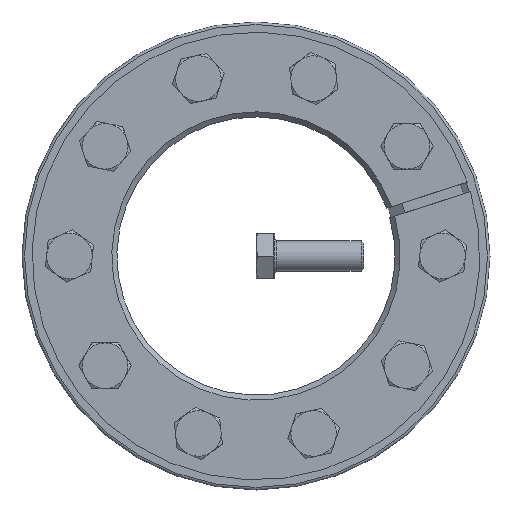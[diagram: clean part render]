
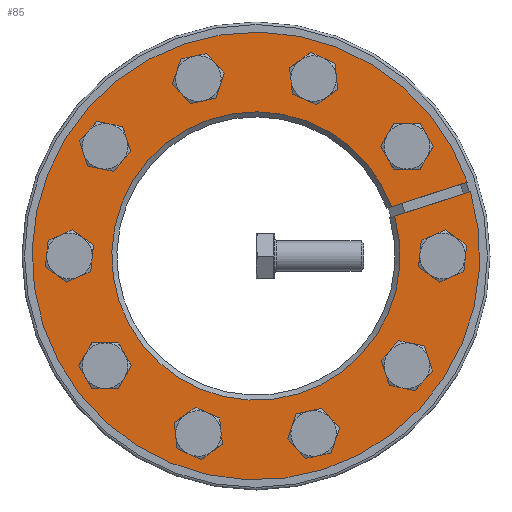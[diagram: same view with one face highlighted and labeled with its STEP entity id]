
A CAD part, front view. The second image highlights one B-rep face of the part: STEP entity #85.
In plain terms, the highlighted planar face has unit normal (0, -1, 0).
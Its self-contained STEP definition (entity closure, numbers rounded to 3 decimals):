
#85 = ADVANCED_FACE( '', ( #183, #184, #185, #186, #187, #188, #189, #190, #191, #192, #193 ), #194, .F. );
#183 = FACE_BOUND( '', #326, .T. );
#184 = FACE_BOUND( '', #327, .T. );
#185 = FACE_BOUND( '', #328, .T. );
#186 = FACE_BOUND( '', #329, .T. );
#187 = FACE_BOUND( '', #330, .T. );
#188 = FACE_BOUND( '', #331, .T. );
#189 = FACE_BOUND( '', #332, .T. );
#190 = FACE_BOUND( '', #333, .T. );
#191 = FACE_BOUND( '', #334, .T. );
#192 = FACE_BOUND( '', #335, .T. );
#193 = FACE_OUTER_BOUND( '', #336, .T. );
#194 = PLANE( '', #337 );
#326 = EDGE_LOOP( '', ( #524 ) );
#327 = EDGE_LOOP( '', ( #525 ) );
#328 = EDGE_LOOP( '', ( #526 ) );
#329 = EDGE_LOOP( '', ( #527 ) );
#330 = EDGE_LOOP( '', ( #528 ) );
#331 = EDGE_LOOP( '', ( #529 ) );
#332 = EDGE_LOOP( '', ( #530 ) );
#333 = EDGE_LOOP( '', ( #531 ) );
#334 = EDGE_LOOP( '', ( #532 ) );
#335 = EDGE_LOOP( '', ( #533 ) );
#336 = EDGE_LOOP( '', ( #534, #535, #536, #537 ) );
#337 = AXIS2_PLACEMENT_3D( '', #538, #539, #540 );
#524 = ORIENTED_EDGE( '', *, *, #753, .T. );
#525 = ORIENTED_EDGE( '', *, *, #763, .T. );
#526 = ORIENTED_EDGE( '', *, *, #745, .T. );
#527 = ORIENTED_EDGE( '', *, *, #732, .T. );
#528 = ORIENTED_EDGE( '', *, *, #764, .T. );
#529 = ORIENTED_EDGE( '', *, *, #729, .T. );
#530 = ORIENTED_EDGE( '', *, *, #765, .T. );
#531 = ORIENTED_EDGE( '', *, *, #766, .T. );
#532 = ORIENTED_EDGE( '', *, *, #767, .T. );
#533 = ORIENTED_EDGE( '', *, *, #761, .T. );
#534 = ORIENTED_EDGE( '', *, *, #768, .T. );
#535 = ORIENTED_EDGE( '', *, *, #755, .T. );
#536 = ORIENTED_EDGE( '', *, *, #769, .F. );
#537 = ORIENTED_EDGE( '', *, *, #736, .T. );
#538 = CARTESIAN_POINT( '', ( 0., 0., 92.5 ) );
#539 = DIRECTION( '', ( 0., 1., 0. ) );
#540 = DIRECTION( '', ( 0., 0., 1. ) );
#729 = EDGE_CURVE( '', #866, #866, #867, .T. );
#732 = EDGE_CURVE( '', #871, #871, #872, .T. );
#736 = EDGE_CURVE( '', #879, #877, #880, .T. );
#745 = EDGE_CURVE( '', #894, #894, #895, .T. );
#753 = EDGE_CURVE( '', #907, #907, #908, .T. );
#755 = EDGE_CURVE( '', #910, #911, #912, .T. );
#761 = EDGE_CURVE( '', #921, #921, #922, .T. );
#763 = EDGE_CURVE( '', #924, #924, #925, .T. );
#764 = EDGE_CURVE( '', #926, #926, #927, .T. );
#765 = EDGE_CURVE( '', #928, #928, #929, .T. );
#766 = EDGE_CURVE( '', #930, #930, #931, .T. );
#767 = EDGE_CURVE( '', #932, #932, #933, .T. );
#768 = EDGE_CURVE( '', #877, #910, #934, .T. );
#769 = EDGE_CURVE( '', #879, #911, #935, .T. );
#866 = VERTEX_POINT( '', #1161 );
#867 = CIRCLE( '', #1162, 6. );
#871 = VERTEX_POINT( '', #1166 );
#872 = CIRCLE( '', #1167, 6. );
#877 = VERTEX_POINT( '', #1172 );
#879 = VERTEX_POINT( '', #1177 );
#880 = CIRCLE( '', #1178, 88.5 );
#894 = VERTEX_POINT( '', #1199 );
#895 = CIRCLE( '', #1200, 6. );
#907 = VERTEX_POINT( '', #1215 );
#908 = CIRCLE( '', #1216, 6. );
#910 = VERTEX_POINT( '', #1218 );
#911 = VERTEX_POINT( '', #1219 );
#912 = CIRCLE( '', #1220, 57. );
#921 = VERTEX_POINT( '', #1235 );
#922 = CIRCLE( '', #1236, 6. );
#924 = VERTEX_POINT( '', #1238 );
#925 = CIRCLE( '', #1239, 6. );
#926 = VERTEX_POINT( '', #1240 );
#927 = CIRCLE( '', #1241, 6. );
#928 = VERTEX_POINT( '', #1242 );
#929 = CIRCLE( '', #1243, 6. );
#930 = VERTEX_POINT( '', #1244 );
#931 = CIRCLE( '', #1245, 6. );
#932 = VERTEX_POINT( '', #1246 );
#933 = CIRCLE( '', #1247, 6. );
#934 = LINE( '', #1248, #1249 );
#935 = LINE( '', #1250, #1251 );
#1161 = CARTESIAN_POINT( '', ( 73.75, 0., -6. ) );
#1162 = AXIS2_PLACEMENT_3D( '', #1372, #1373, #1374 );
#1166 = CARTESIAN_POINT( '', ( -17.084, 0., 71.995 ) );
#1167 = AXIS2_PLACEMENT_3D( '', #1378, #1379, #1380 );
#1172 = CARTESIAN_POINT( '', ( 84.765, 0., 25.439 ) );
#1177 = CARTESIAN_POINT( '', ( 83.529, 0., 29.243 ) );
#1178 = AXIS2_PLACEMENT_3D( '', #1384, #1385, #1386 );
#1199 = CARTESIAN_POINT( '', ( -73.75, 0., 6. ) );
#1200 = AXIS2_PLACEMENT_3D( '', #1394, #1395, #1396 );
#1215 = CARTESIAN_POINT( '', ( 56.138, 0., -48.203 ) );
#1216 = AXIS2_PLACEMENT_3D( '', #1406, #1407, #1408 );
#1218 = CARTESIAN_POINT( '', ( 54.795, 0., 15.701 ) );
#1219 = CARTESIAN_POINT( '', ( 53.559, 0., 19.505 ) );
#1220 = AXIS2_PLACEMENT_3D( '', #1409, #1410, #1411 );
#1235 = CARTESIAN_POINT( '', ( 17.084, 0., -71.995 ) );
#1236 = AXIS2_PLACEMENT_3D( '', #1418, #1419, #1420 );
#1238 = CARTESIAN_POINT( '', ( -28.496, 0., -68.286 ) );
#1239 = AXIS2_PLACEMENT_3D( '', #1421, #1422, #1423 );
#1240 = CARTESIAN_POINT( '', ( 63.192, 0., 38.495 ) );
#1241 = AXIS2_PLACEMENT_3D( '', #1424, #1425, #1426 );
#1242 = CARTESIAN_POINT( '', ( 28.496, 0., 68.286 ) );
#1243 = AXIS2_PLACEMENT_3D( '', #1427, #1428, #1429 );
#1244 = CARTESIAN_POINT( '', ( -56.138, 0., 48.203 ) );
#1245 = AXIS2_PLACEMENT_3D( '', #1430, #1431, #1432 );
#1246 = CARTESIAN_POINT( '', ( -63.192, 0., -38.495 ) );
#1247 = AXIS2_PLACEMENT_3D( '', #1433, #1434, #1435 );
#1248 = CARTESIAN_POINT( '', ( 84.787, 0., 25.446 ) );
#1249 = VECTOR( '', #1436, 1000. );
#1250 = CARTESIAN_POINT( '', ( 83.55, 0., 29.25 ) );
#1251 = VECTOR( '', #1437, 1000. );
#1372 = CARTESIAN_POINT( '', ( 73.75, 0., 0. ) );
#1373 = DIRECTION( '', ( 0., 1., 0. ) );
#1374 = DIRECTION( '', ( 0., 0., -1. ) );
#1378 = CARTESIAN_POINT( '', ( -22.79, 0., 70.14 ) );
#1379 = DIRECTION( '', ( 0., 1., 0. ) );
#1380 = DIRECTION( '', ( 0.951, 0., 0.309 ) );
#1384 = CARTESIAN_POINT( '', ( 0., 0., 0. ) );
#1385 = DIRECTION( '', ( 0., -1., 0. ) );
#1386 = DIRECTION( '', ( 0., 0., -1. ) );
#1394 = CARTESIAN_POINT( '', ( -73.75, 0., 0. ) );
#1395 = DIRECTION( '', ( 0., 1., 0. ) );
#1396 = DIRECTION( '', ( 0., 0., 1. ) );
#1406 = CARTESIAN_POINT( '', ( 59.665, 0., -43.349 ) );
#1407 = DIRECTION( '', ( 0., 1., 0. ) );
#1408 = DIRECTION( '', ( -0.588, 0., -0.809 ) );
#1409 = CARTESIAN_POINT( '', ( 0., 0., 0. ) );
#1410 = DIRECTION( '', ( 0., 1., 0. ) );
#1411 = DIRECTION( '', ( 0., 0., 1. ) );
#1418 = CARTESIAN_POINT( '', ( 22.79, 0., -70.14 ) );
#1419 = DIRECTION( '', ( 0., 1., 0. ) );
#1420 = DIRECTION( '', ( -0.951, 0., -0.309 ) );
#1421 = CARTESIAN_POINT( '', ( -22.79, 0., -70.14 ) );
#1422 = DIRECTION( '', ( 0., 1., 0. ) );
#1423 = DIRECTION( '', ( -0.951, 0., 0.309 ) );
#1424 = CARTESIAN_POINT( '', ( 59.665, 0., 43.349 ) );
#1425 = DIRECTION( '', ( 0., 1., 0. ) );
#1426 = DIRECTION( '', ( 0.588, 0., -0.809 ) );
#1427 = CARTESIAN_POINT( '', ( 22.79, 0., 70.14 ) );
#1428 = DIRECTION( '', ( 0., 1., 0. ) );
#1429 = DIRECTION( '', ( 0.951, 0., -0.309 ) );
#1430 = CARTESIAN_POINT( '', ( -59.665, 0., 43.349 ) );
#1431 = DIRECTION( '', ( 0., 1., 0. ) );
#1432 = DIRECTION( '', ( 0.588, 0., 0.809 ) );
#1433 = CARTESIAN_POINT( '', ( -59.665, 0., -43.349 ) );
#1434 = DIRECTION( '', ( 0., 1., 0. ) );
#1435 = DIRECTION( '', ( -0.588, 0., 0.809 ) );
#1436 = DIRECTION( '', ( -0.951, 0., -0.309 ) );
#1437 = DIRECTION( '', ( -0.951, 0., -0.309 ) );
